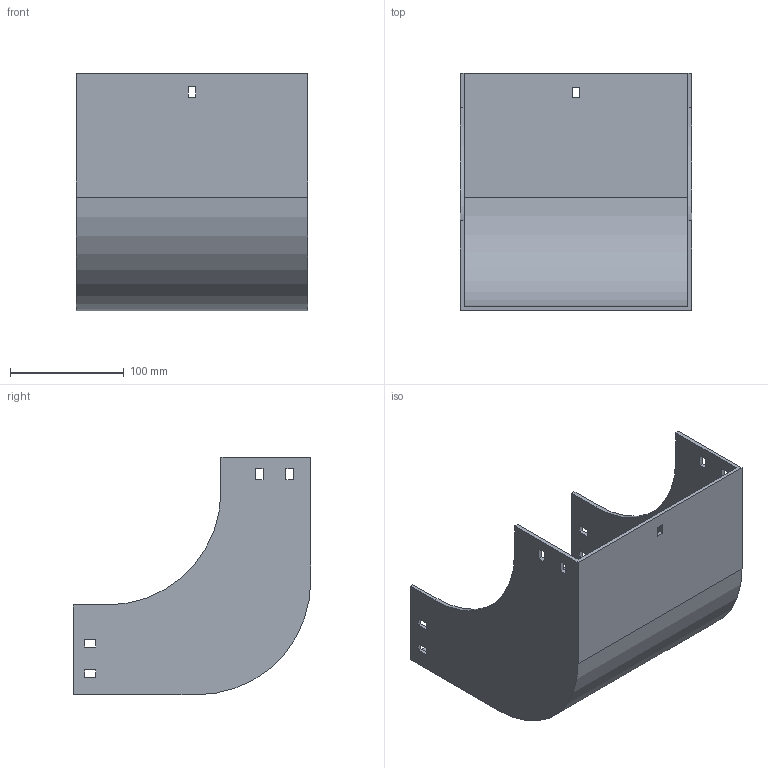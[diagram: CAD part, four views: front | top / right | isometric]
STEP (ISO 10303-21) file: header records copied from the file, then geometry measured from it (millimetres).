
FILE_DESCRIPTION (( 'STEP AP214' ), '1' );
FILE_NAME ('30F1C200.step', '2025-02-21T13:02:09', ( '' ), ( '' ), 'SwSTEP 2.0', 'SolidWorks 2023', '' );
FILE_SCHEMA (( 'AUTOMOTIVE_DESIGN' ));
Length unit declared in the file: millimetre
Products named in the file (1): 30F1C200
Bounding box: 204 x 209 x 209 mm (x, y, z)
Volume: 441819.5 mm3; surface area: 257661.1 mm2
Topology: 1 solids, 1 shells, 58 faces, 168 edges, 112 vertices
Faces by surface type: plane 54, cylinder 4
Entity records: 1943 total; most frequent: CARTESIAN_POINT 339, ORIENTED_EDGE 336, DIRECTION 294, EDGE_CURVE 168, VECTOR 160, LINE 160, VERTEX_POINT 112, EDGE_LOOP 78
